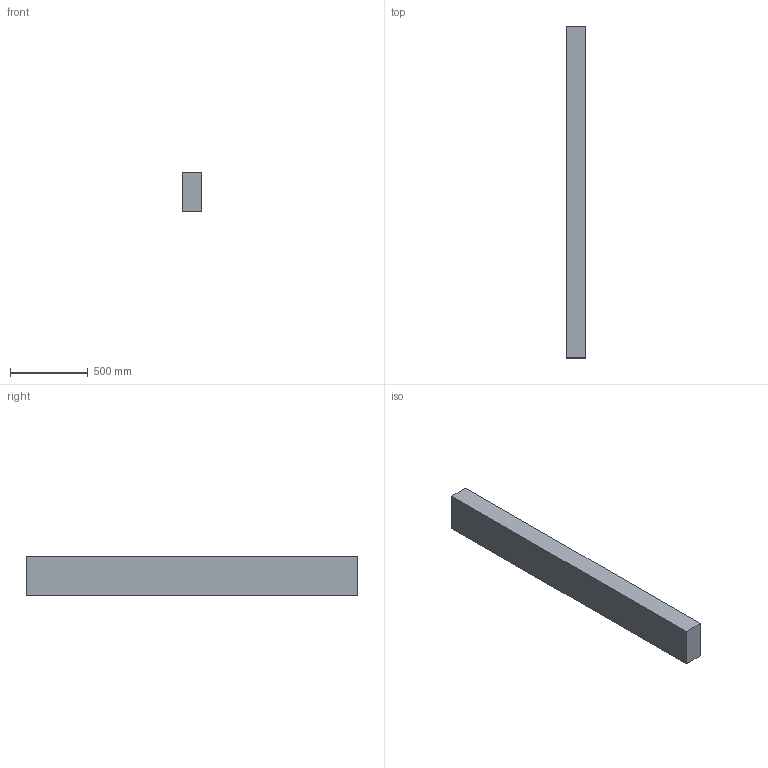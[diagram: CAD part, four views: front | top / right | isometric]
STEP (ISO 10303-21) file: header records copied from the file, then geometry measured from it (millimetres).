
FILE_DESCRIPTION(/* description */ (''),/* implementation_level */ '2;1');
FILE_NAME(/* name */ '5x10x84',/* time_stamp */ '2024-09-20T11:46:32-05:00',/* author */ (''),/* organization */ (''),/* preprocessor_version */ 'ST-DEVELOPER v19.2',/* originating_system */ 'Rhino 8.5',/* authorisation */ '');
FILE_SCHEMA (('CONFIG_CONTROL_DESIGN'));
Length unit declared in the file: inch
Products named in the file (1): Document
Bounding box: 127 x 2133.6 x 254 mm (x, y, z)
Volume: 68825668.8 mm3; surface area: 1690319.2 mm2
Topology: 1 solids, 1 shells, 6 faces, 12 edges, 8 vertices
Faces by surface type: plane 6
Entity records: 226 total; most frequent: CARTESIAN_POINT 40, ORIENTED_EDGE 24, EDGE_CURVE 12, B_SPLINE_CURVE_WITH_KNOTS 12, DIRECTION 10, VERTEX_POINT 8, AXIS2_PLACEMENT_3D 8, ORGANIZATION 7
